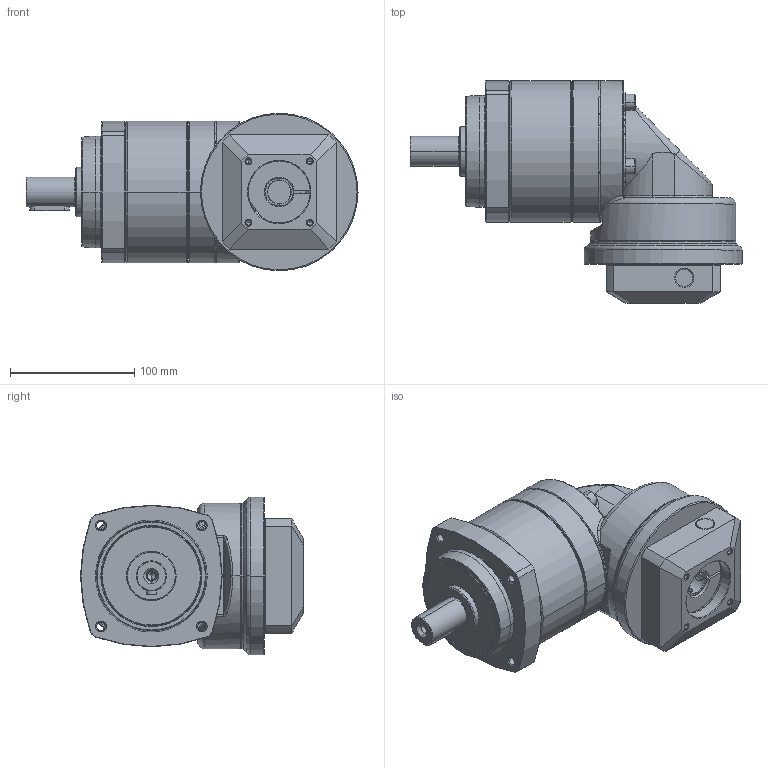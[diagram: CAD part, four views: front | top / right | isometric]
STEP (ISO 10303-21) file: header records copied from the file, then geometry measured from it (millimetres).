
FILE_DESCRIPTION((''),'2;1');
FILE_NAME('PS2R-D_1ST_19-P0411400101_ASM','2016-05-30T',('d01943'),(''),'PRO/ENGINEER BY PARAMETRIC TECHNOLOGY CORPORATION, 2008410','PRO/ENGINEER BY PARAMETRIC TECHNOLOGY CORPORATION, 2008410','');
FILE_SCHEMA(('CONFIG_CONTROL_DESIGN'));
Length unit declared in the file: millimetre
Products named in the file (12): P1328410001; P0250400001; P0350401401; P1349400001; P1017400001; P0713400001; P0503400008; P1350400001; P0411400101; P1702500001; 2111B108035; PS2R-D_1ST_19-P0411400101_ASM
Assembly tree (14 placements, depth 2):
  PS2R-D_1ST_19-P0411400101_ASM
    P1328410001
    P0250400001
    P0350401401
    P1349400001
    P1017400001
    P0713400001
    P0503400008
    P1350400001
    P0411400101
    P1702500001
    2111B108035  x4
Bounding box: 267.5 x 179.5 x 127 mm (x, y, z)
Volume: 1539284.6 mm3; surface area: 313360.7 mm2
Topology: 14 solids, 14 shells, 700 faces, 1549 edges, 898 vertices
Faces by surface type: cylinder 212, cone 208, plane 154, torus 92, bspline 34
Entity records: 22522 total; most frequent: CARTESIAN_POINT 9032, DIRECTION 2969, ORIENTED_EDGE 2622, EDGE_CURVE 1311, AXIS2_PLACEMENT_3D 1256, VERTEX_POINT 778, EDGE_LOOP 681, CIRCLE 663
